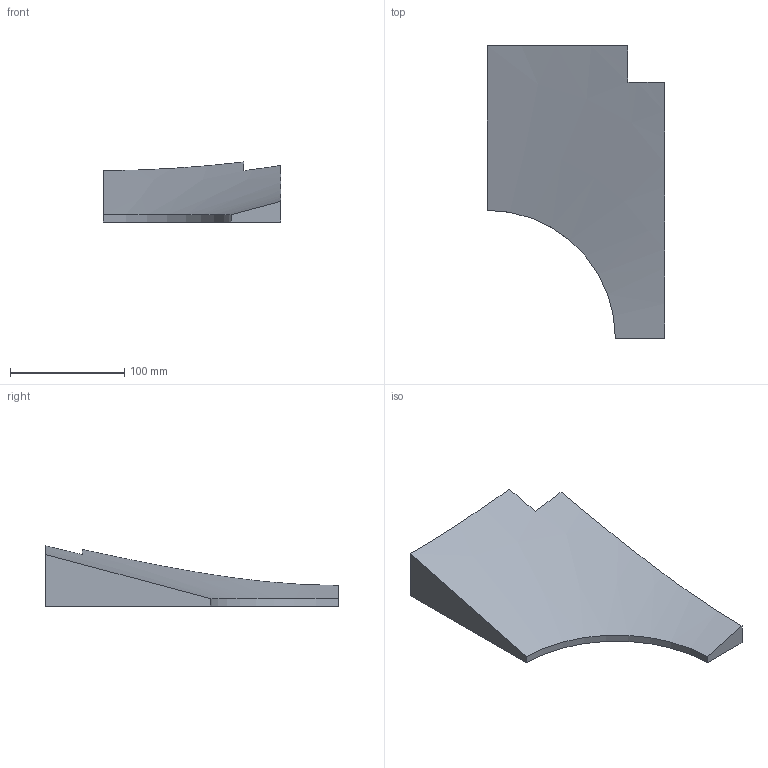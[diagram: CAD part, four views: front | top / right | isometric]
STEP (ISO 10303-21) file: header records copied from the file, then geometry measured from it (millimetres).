
FILE_DESCRIPTION(('Open CASCADE Model'),'2;1');
FILE_NAME('Open CASCADE Shape Model','2026-10-06T19:56:10',('Author'),( 'Open CASCADE'),'Open CASCADE STEP processor 7.9','Open CASCADE 7.9' ,'Unknown');
FILE_SCHEMA(('AUTOMOTIVE_DESIGN { 1 0 10303 214 1 1 1 1 }'));
Length unit declared in the file: millimetre
Products named in the file (1): Open CASCADE STEP translator 7.9 35
Bounding box: 155 x 256 x 52.6 mm (x, y, z)
Volume: 751106 mm3; surface area: 79922.1 mm2
Topology: 1 solids, 1 shells, 11 faces, 24 edges, 16 vertices
Faces by surface type: plane 8, cylinder 2, cone 1
Full cylindrical faces by diameter (mm): 13 x1
Entity records: 635 total; most frequent: CARTESIAN_POINT 179, DIRECTION 71, ORIENTED_EDGE 48, PCURVE 48, DEFINITIONAL_REPRESENTATION 48, LINE 30, VECTOR 30, B_SPLINE_CURVE_WITH_KNOTS 27
